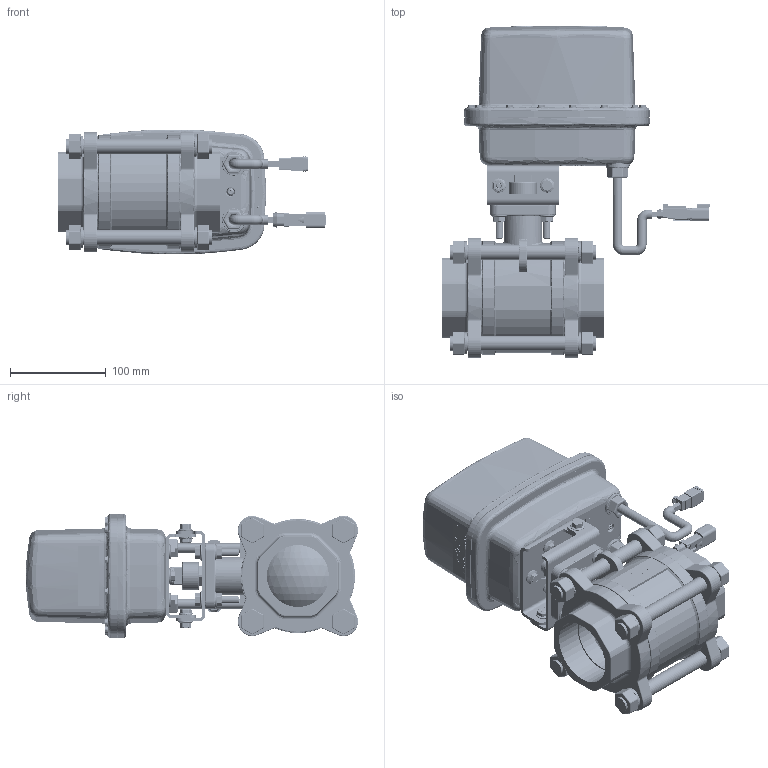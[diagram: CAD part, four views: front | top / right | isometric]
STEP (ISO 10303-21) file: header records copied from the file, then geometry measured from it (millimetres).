
FILE_DESCRIPTION (( 'STEP AP203' ), '1' );
FILE_NAME ('YE-VK-PL_Valve.STEP', '2014-07-03T20:54:23', ( '' ), ( '' ), 'SwSTEP 2.0', 'SolidWorks 2014', '' );
FILE_SCHEMA (( 'CONFIG_CONTROL_DESIGN' ));
Length unit declared in the file: inch
Products named in the file (1): YE-VK-PL_Valve
Bounding box: 281.34 x 347.51 x 130.8 mm (x, y, z)
Surface area: 893841.5 mm2 (no closed solid volume)
Topology: 0 solids, 251 shells, 15815 faces, 43490 edges, 28090 vertices
Faces by surface type: plane 6939, cylinder 4727, bspline 3063, cone 1058, torus 28
Entity records: 716772 total; most frequent: CARTESIAN_POINT 353384, ORIENTED_EDGE 85912, DIRECTION 61895, EDGE_CURVE 43132, VERTEX_POINT 28093, AXIS2_PLACEMENT_3D 21329, LINE 19237, VECTOR 19237
